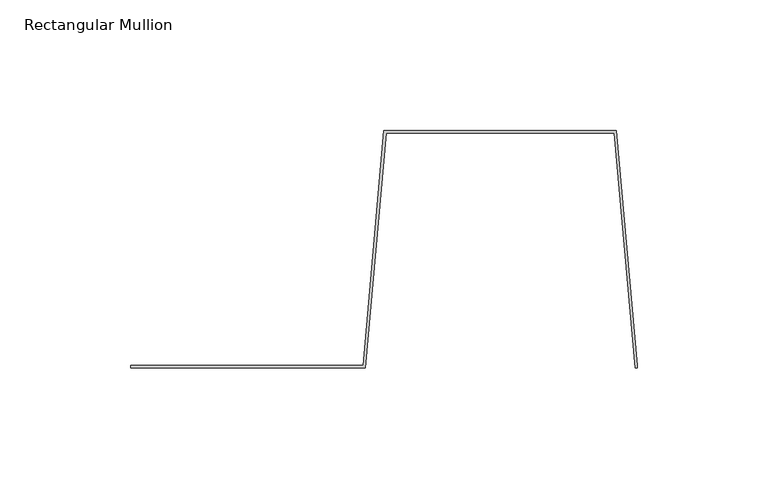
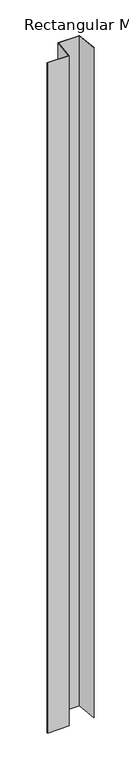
"""IFC4 building model written with IfcOpenShell, lengths in millimetres: member geometry, Rectangular Mullion : CD_NINELINE_Box Intermediate."""

from ifc_helpers import new_model, si_unit, frame, origin, place, context, project, spatial, polyline, outline, extrude, source, transform, mapped, element, save


def rectangular_mullion_1e0c4966(model_context):
    return source(origin(), model_context, "Body", "SweptSolid", [
        extrude(outline(polyline([(0.0, 0.0), (0.0, 1.0), (88.996825, 1.0), (97.0, 91.0357186), (186.0, 91.0357186), (194.0, 1.0357186), (194.0, 0.0), (193.088121, 0.0), (185.088121, 90.0), (97.911879, 90.0), (89.911879, 0.0), (0.0, 0.0)])), frame((0.0, 0.0, -2942.0), z_axis=(0.0, 0.0, 1.0), x_axis=(1.0, 0.0, 0.0)), (0.0, 0.0, 1.0), 2942.0),
    ])


if __name__ == "__main__":
    model = new_model("IFC4")
    model_context = context("Model", 3, world=origin())
    ifc_project = project(units=[si_unit("LENGTHUNIT", "METRE", prefix="MILLI")], contexts=[model_context])
    site = spatial("IfcSite", under=ifc_project)
    building = spatial("IfcBuilding", under=site)
    placement = place(None, origin())
    rectangular_mullion_shape = rectangular_mullion_1e0c4966(model_context)
    element("IfcMember", 1, ObjectType="Rectangular Mullion : CD_NINELINE_Box Intermediate", at=placement, inside=building, context=model_context, shape_type="MappedRepresentation", body=[
        mapped(rectangular_mullion_shape, transform((0.0, 0.0, 0.0), x_axis=(1.0, 0.0, 0.0), y_axis=(0.0, 1.0, 0.0), z_axis=(0.0, 0.0, 1.0))),
    ])
    save(model, "model.ifc")
